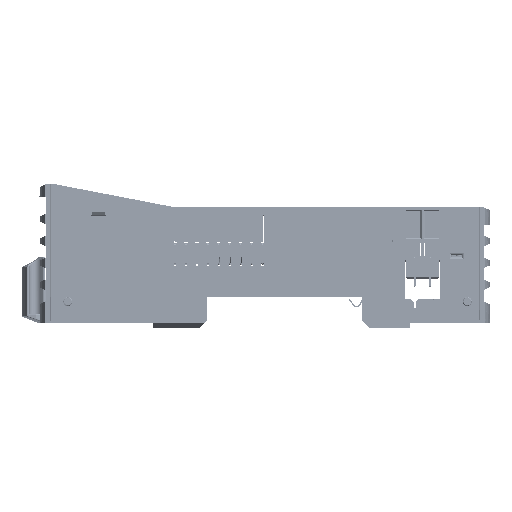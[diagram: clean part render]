
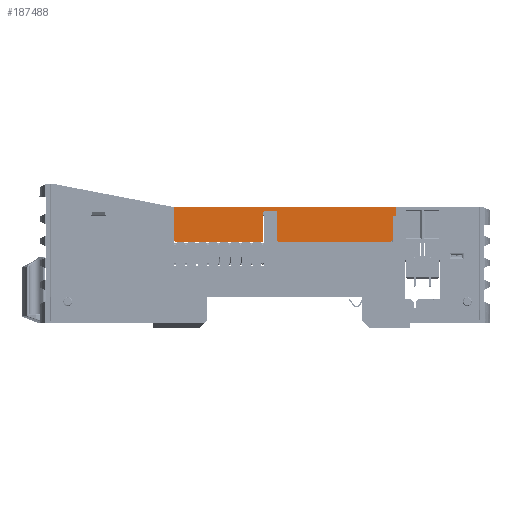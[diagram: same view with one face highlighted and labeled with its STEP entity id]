
A CAD part, left-side view. The second image highlights one B-rep face of the part: STEP entity #187488.
In plain terms, the highlighted planar face has unit normal (-1, 0, 0).
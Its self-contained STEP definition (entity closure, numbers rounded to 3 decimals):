
#56913=DIRECTION('',(0.,0.,1.));
#56914=VECTOR('',#56913,1.99);
#56915=CARTESIAN_POINT('',(-1.731,-3.918,12.8));
#56916=LINE('',#56915,#56914);
#56948=DIRECTION('',(0.,-1.,0.));
#56949=VECTOR('',#56948,50.65);
#56950=CARTESIAN_POINT('',(-1.731,46.732,14.79));
#56951=LINE('',#56950,#56949);
#56955=DIRECTION('',(0.,1.,0.));
#56956=VECTOR('',#56955,0.75);
#56957=CARTESIAN_POINT('',(-1.731,-3.918,12.8));
#56958=LINE('',#56957,#56956);
#56962=DIRECTION('',(0.,0.,-1.));
#56963=VECTOR('',#56962,5.4);
#56964=CARTESIAN_POINT('',(-1.731,-3.168,12.8));
#56965=LINE('',#56964,#56963);
#56969=DIRECTION('',(0.,0.707,-0.707));
#56970=VECTOR('',#56969,0.707);
#56971=CARTESIAN_POINT('',(-1.731,-3.168,7.4));
#56972=LINE('',#56971,#56970);
#56976=DIRECTION('',(0.,0.707,0.707));
#56977=VECTOR('',#56976,0.283);
#56978=CARTESIAN_POINT('',(-1.731,23.032,6.9));
#56979=LINE('',#56978,#56977);
#56983=DIRECTION('',(0.,0.,1.));
#56984=VECTOR('',#56983,6.6);
#56985=CARTESIAN_POINT('',(-1.731,23.232,7.1));
#56986=LINE('',#56985,#56984);
#56990=DIRECTION('',(0.,0.707,0.707));
#56991=VECTOR('',#56990,0.283);
#56992=CARTESIAN_POINT('',(-1.731,23.232,13.7));
#56993=LINE('',#56992,#56991);
#56997=DIRECTION('',(0.,0.707,-0.707));
#56998=VECTOR('',#56997,0.283);
#56999=CARTESIAN_POINT('',(-1.731,26.232,13.9));
#57000=LINE('',#56999,#56998);
#57004=DIRECTION('',(0.,0.,-1.));
#57005=VECTOR('',#57004,6.6);
#57006=CARTESIAN_POINT('',(-1.731,26.432,13.7));
#57007=LINE('',#57006,#57005);
#57011=DIRECTION('',(0.,0.707,-0.707));
#57012=VECTOR('',#57011,0.283);
#57013=CARTESIAN_POINT('',(-1.731,26.432,7.1));
#57014=LINE('',#57013,#57012);
#57018=DIRECTION('',(0.,0.707,0.707));
#57019=VECTOR('',#57018,0.283);
#57020=CARTESIAN_POINT('',(-1.731,46.532,6.9));
#57021=LINE('',#57020,#57019);
#57025=DIRECTION('',(0.,0.,1.));
#57026=VECTOR('',#57025,7.69);
#57027=CARTESIAN_POINT('',(-1.731,46.732,7.1));
#57028=LINE('',#57027,#57026);
#57109=DIRECTION('',(0.,-1.,0.));
#57110=VECTOR('',#57109,19.9);
#57111=CARTESIAN_POINT('',(-1.731,46.532,6.9));
#57112=LINE('',#57111,#57110);
#57384=DIRECTION('',(0.,-1.,0.));
#57385=VECTOR('',#57384,2.8);
#57386=CARTESIAN_POINT('',(-1.731,26.232,13.9));
#57387=LINE('',#57386,#57385);
#57454=DIRECTION('',(0.,-1.,0.));
#57455=VECTOR('',#57454,25.7);
#57456=CARTESIAN_POINT('',(-1.731,23.032,6.9));
#57457=LINE('',#57456,#57455);
#182662=CARTESIAN_POINT('',(-1.731,-3.168,12.8));
#182663=VERTEX_POINT('',#182662);
#182664=CARTESIAN_POINT('',(-1.731,-3.918,12.8));
#182665=VERTEX_POINT('',#182664);
#182983=CARTESIAN_POINT('',(-1.731,26.232,13.9));
#182985=VERTEX_POINT('',#182983);
#182987=CARTESIAN_POINT('',(-1.731,23.432,13.9));
#182988=VERTEX_POINT('',#182987);
#182995=CARTESIAN_POINT('',(-1.731,26.432,13.7));
#182996=VERTEX_POINT('',#182995);
#183030=CARTESIAN_POINT('',(-1.731,46.732,7.1));
#183032=VERTEX_POINT('',#183030);
#183033=CARTESIAN_POINT('',(-1.731,-3.168,7.4));
#183034=CARTESIAN_POINT('',(-1.731,-2.668,6.9));
#183035=VERTEX_POINT('',#183033);
#183036=VERTEX_POINT('',#183034);
#183037=CARTESIAN_POINT('',(-1.731,23.032,6.9));
#183038=VERTEX_POINT('',#183037);
#183039=CARTESIAN_POINT('',(-1.731,23.232,7.1));
#183040=VERTEX_POINT('',#183039);
#183041=CARTESIAN_POINT('',(-1.731,23.232,13.7));
#183042=VERTEX_POINT('',#183041);
#183043=CARTESIAN_POINT('',(-1.731,26.432,7.1));
#183044=VERTEX_POINT('',#183043);
#183045=CARTESIAN_POINT('',(-1.731,26.632,6.9));
#183046=VERTEX_POINT('',#183045);
#183047=CARTESIAN_POINT('',(-1.731,46.532,6.9));
#183048=VERTEX_POINT('',#183047);
#184809=CARTESIAN_POINT('',(-1.731,46.732,14.79));
#184811=VERTEX_POINT('',#184809);
#184812=CARTESIAN_POINT('',(-1.731,-3.918,14.79));
#184813=VERTEX_POINT('',#184812);
#187451=CARTESIAN_POINT('',(-1.731,46.732,14.8));
#187452=DIRECTION('',(-1.,0.,0.));
#187453=DIRECTION('',(0.,-1.,0.));
#187454=AXIS2_PLACEMENT_3D('',#187451,#187452,#187453);
#187455=PLANE('',#187454);
#187457=ORIENTED_EDGE('',*,*,#187456,.T.);
#187458=ORIENTED_EDGE('',*,*,#187431,.F.);
#187459=ORIENTED_EDGE('',*,*,#187043,.T.);
#187461=ORIENTED_EDGE('',*,*,#187460,.T.);
#187463=ORIENTED_EDGE('',*,*,#187462,.T.);
#187465=ORIENTED_EDGE('',*,*,#187464,.F.);
#187467=ORIENTED_EDGE('',*,*,#187466,.T.);
#187469=ORIENTED_EDGE('',*,*,#187468,.T.);
#187471=ORIENTED_EDGE('',*,*,#187470,.T.);
#187473=ORIENTED_EDGE('',*,*,#187472,.F.);
#187475=ORIENTED_EDGE('',*,*,#187474,.T.);
#187477=ORIENTED_EDGE('',*,*,#187476,.T.);
#187479=ORIENTED_EDGE('',*,*,#187478,.T.);
#187481=ORIENTED_EDGE('',*,*,#187480,.F.);
#187483=ORIENTED_EDGE('',*,*,#187482,.T.);
#187485=ORIENTED_EDGE('',*,*,#187484,.T.);
#187486=EDGE_LOOP('',(#187457,#187458,#187459,#187461,#187463,#187465,#187467,
#187469,#187471,#187473,#187475,#187477,#187479,#187481,#187483,#187485));
#187487=FACE_OUTER_BOUND('',#187486,.F.);
#187043=EDGE_CURVE('',#182665,#182663,#56958,.T.);
#187431=EDGE_CURVE('',#182665,#184813,#56916,.T.);
#187456=EDGE_CURVE('',#184811,#184813,#56951,.T.);
#187460=EDGE_CURVE('',#182663,#183035,#56965,.T.);
#187462=EDGE_CURVE('',#183035,#183036,#56972,.T.);
#187464=EDGE_CURVE('',#183038,#183036,#57457,.T.);
#187466=EDGE_CURVE('',#183038,#183040,#56979,.T.);
#187468=EDGE_CURVE('',#183040,#183042,#56986,.T.);
#187470=EDGE_CURVE('',#183042,#182988,#56993,.T.);
#187472=EDGE_CURVE('',#182985,#182988,#57387,.T.);
#187474=EDGE_CURVE('',#182985,#182996,#57000,.T.);
#187476=EDGE_CURVE('',#182996,#183044,#57007,.T.);
#187478=EDGE_CURVE('',#183044,#183046,#57014,.T.);
#187480=EDGE_CURVE('',#183048,#183046,#57112,.T.);
#187482=EDGE_CURVE('',#183048,#183032,#57021,.T.);
#187484=EDGE_CURVE('',#183032,#184811,#57028,.T.);
#187488=ADVANCED_FACE('',(#187487),#187455,.T.);
